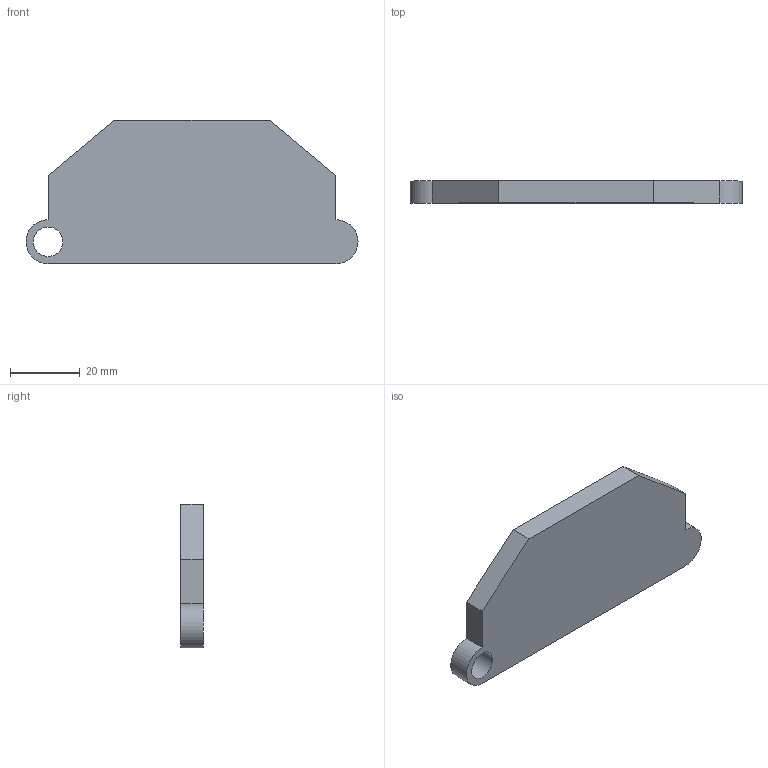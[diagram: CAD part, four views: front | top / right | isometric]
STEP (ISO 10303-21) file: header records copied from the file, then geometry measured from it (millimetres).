
FILE_DESCRIPTION(/* description */ (''),/* implementation_level */ '2;1');
FILE_NAME(/* name */ 'C:\Users\PLTW\Documents\Inventor\Per4Practice\JeepKeyChain.stp',/* time_stamp */ '2015-09-15T11:14:28-04:00',/* author */ ('PLTW'),/* organization */ (''),/* preprocessor_version */ 'ST-DEVELOPER v16.1',/* originating_system */ 'Autodesk Inventor 2016',/* authorisation */ '');
FILE_SCHEMA (('AUTOMOTIVE_DESIGN { 1 0 10303 214 3 1 1 }'));
Length unit declared in the file: inch
Products named in the file (1): JeepKeyChain
Bounding box: 95.25 x 6.35 x 41.27 mm (x, y, z)
Volume: 17154.9 mm3; surface area: 10263.8 mm2
Topology: 1 solids, 1 shells, 103 faces, 261 edges, 174 vertices
Faces by surface type: plane 86, bspline 12, cylinder 5
Full cylindrical faces by diameter (mm): 8.467 x1, 12.7 x2
Entity records: 3136 total; most frequent: CARTESIAN_POINT 696, ORIENTED_EDGE 516, DIRECTION 428, EDGE_CURVE 258, LINE 224, VECTOR 224, VERTEX_POINT 174, EDGE_LOOP 122
